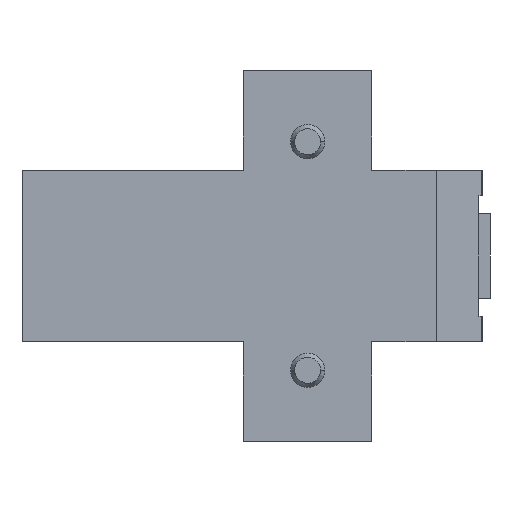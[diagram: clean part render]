
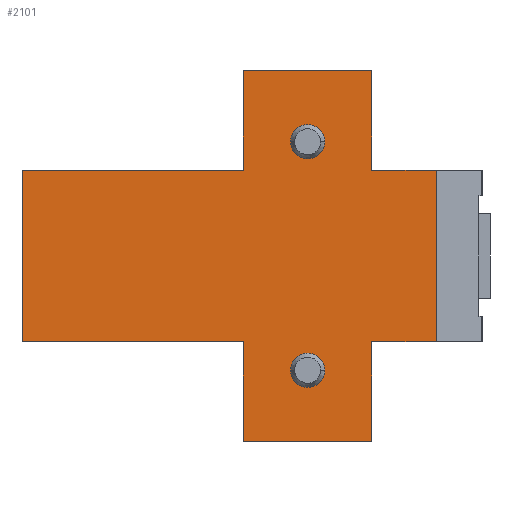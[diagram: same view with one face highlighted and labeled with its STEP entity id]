
A CAD part, left-side view. The second image highlights one B-rep face of the part: STEP entity #2101.
In plain terms, the highlighted planar face has unit normal (-1, 0, 0).
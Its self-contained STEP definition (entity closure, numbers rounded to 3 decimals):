
#28 = AXIS2_PLACEMENT_3D ( 'NONE', #906, #907, #908 ) ;
#29 = CIRCLE ( 'NONE', #236, 2.4 ) ;
#58 = VECTOR ( 'NONE', #890, 1000. ) ;
#87 = VECTOR ( 'NONE', #878, 1000. ) ;
#94 = VECTOR ( 'NONE', #892, 1000. ) ;
#145 = VECTOR ( 'NONE', #903, 1000. ) ;
#146 = VECTOR ( 'NONE', #872, 1000. ) ;
#154 = CIRCLE ( 'NONE', #28, 2.4 ) ;
#176 = VECTOR ( 'NONE', #875, 1000. ) ;
#236 = AXIS2_PLACEMENT_3D ( 'NONE', #868, #869, #870 ) ;
#261 = VECTOR ( 'NONE', #887, 1000. ) ;
#291 = VECTOR ( 'NONE', #881, 1000. ) ;
#322 = AXIS2_PLACEMENT_3D ( 'NONE', #1152, #1148, #1157 ) ;
#325 = VECTOR ( 'NONE', #884, 1000. ) ;
#381 = VECTOR ( 'NONE', #900, 1000. ) ;
#382 = VECTOR ( 'NONE', #897, 1000. ) ;
#390 = VECTOR ( 'NONE', #895, 1000. ) ;
#510 = EDGE_LOOP ( 'NONE', ( #1685, #1686, #1687, #1688, #1689, #1690, #1691, #1692, #1693, #1694, #1695, #1696 ) ) ;
#514 = EDGE_LOOP ( 'NONE', ( #1697, #1698 ) ) ;
#860 = CARTESIAN_POINT ( 'NONE',  ( 0., 22., -26. ) ) ;
#865 = LINE ( 'NONE', #873, #176 ) ;
#866 = LINE ( 'NONE', #876, #87 ) ;
#867 = LINE ( 'NONE', #860, #146 ) ;
#868 = CARTESIAN_POINT ( 'NONE',  ( 0., 13., -16. ) ) ;
#869 = DIRECTION ( 'NONE',  ( -1., 0., 0. ) ) ;
#870 = DIRECTION ( 'NONE',  ( 0., 0., -1. ) ) ;
#871 = LINE ( 'NONE', #879, #291 ) ;
#872 = DIRECTION ( 'NONE',  ( 0., 0., 1. ) ) ;
#873 = CARTESIAN_POINT ( 'NONE',  ( 0., -5.007, 12. ) ) ;
#874 = LINE ( 'NONE', #882, #325 ) ;
#875 = DIRECTION ( 'NONE',  ( 0., 1., 0. ) ) ;
#876 = CARTESIAN_POINT ( 'NONE',  ( 0., 53., -12. ) ) ;
#877 = LINE ( 'NONE', #885, #261 ) ;
#878 = DIRECTION ( 'NONE',  ( 0., 0., 1. ) ) ;
#879 = CARTESIAN_POINT ( 'NONE',  ( 0., -5.007, -12. ) ) ;
#880 = LINE ( 'NONE', #888, #58 ) ;
#881 = DIRECTION ( 'NONE',  ( 0., 1., 0. ) ) ;
#882 = CARTESIAN_POINT ( 'NONE',  ( 0., 22., -26. ) ) ;
#883 = LINE ( 'NONE', #891, #94 ) ;
#884 = DIRECTION ( 'NONE',  ( 0., 0., 1. ) ) ;
#885 = CARTESIAN_POINT ( 'NONE',  ( 0., 4., -26. ) ) ;
#886 = CARTESIAN_POINT ( 'NONE',  ( 0., -5.007, 12. ) ) ;
#887 = DIRECTION ( 'NONE',  ( 0., 1., 0. ) ) ;
#888 = CARTESIAN_POINT ( 'NONE',  ( 0., 4., -26. ) ) ;
#889 = LINE ( 'NONE', #886, #382 ) ;
#890 = DIRECTION ( 'NONE',  ( 0., 0., 1. ) ) ;
#891 = CARTESIAN_POINT ( 'NONE',  ( 0., -5.007, -12. ) ) ;
#892 = DIRECTION ( 'NONE',  ( 0., 1., 0. ) ) ;
#893 = LINE ( 'NONE', #894, #390 ) ;
#894 = CARTESIAN_POINT ( 'NONE',  ( 0., -5.007, -12. ) ) ;
#895 = DIRECTION ( 'NONE',  ( 0., 0., 1. ) ) ;
#897 = DIRECTION ( 'NONE',  ( 0., 1., 0. ) ) ;
#898 = LINE ( 'NONE', #899, #381 ) ;
#899 = CARTESIAN_POINT ( 'NONE',  ( 0., 4., -26. ) ) ;
#900 = DIRECTION ( 'NONE',  ( 0., 0., 1. ) ) ;
#901 = LINE ( 'NONE', #902, #145 ) ;
#902 = CARTESIAN_POINT ( 'NONE',  ( 0., 4., 26. ) ) ;
#903 = DIRECTION ( 'NONE',  ( 0., 1., 0. ) ) ;
#906 = CARTESIAN_POINT ( 'NONE',  ( 0., 13., 16. ) ) ;
#907 = DIRECTION ( 'NONE',  ( -1., 0., 0. ) ) ;
#908 = DIRECTION ( 'NONE',  ( 0., 0., -1. ) ) ;
#1148 = DIRECTION ( 'NONE',  ( 1., 0., 0. ) ) ;
#1151 = FACE_BOUND ( 'NONE', #1738, .T. ) ;
#1152 = CARTESIAN_POINT ( 'NONE',  ( 0., -5.007, -12. ) ) ;
#1153 = FACE_OUTER_BOUND ( 'NONE', #510, .T. ) ;
#1155 = FACE_BOUND ( 'NONE', #514, .T. ) ;
#1156 = PLANE ( 'NONE',  #322 ) ;
#1157 = DIRECTION ( 'NONE',  ( 0., 0., -1. ) ) ;
#1643 = EDGE_CURVE ( 'NONE', #3247, #3241, #29, .T. ) ;
#1644 = EDGE_CURVE ( 'NONE', #3278, #3286, #867, .T. ) ;
#1645 = EDGE_CURVE ( 'NONE', #3278, #3290, #865, .T. ) ;
#1646 = EDGE_CURVE ( 'NONE', #3289, #3290, #866, .T. ) ;
#1647 = EDGE_CURVE ( 'NONE', #3279, #3289, #871, .T. ) ;
#1648 = EDGE_CURVE ( 'NONE', #3236, #3279, #874, .T. ) ;
#1649 = EDGE_CURVE ( 'NONE', #3230, #3236, #877, .T. ) ;
#1650 = EDGE_CURVE ( 'NONE', #3230, #3294, #880, .T. ) ;
#1652 = EDGE_CURVE ( 'NONE', #3291, #3294, #883, .T. ) ;
#1653 = EDGE_CURVE ( 'NONE', #3291, #3296, #893, .T. ) ;
#1656 = EDGE_CURVE ( 'NONE', #3296, #3302, #889, .T. ) ;
#1657 = EDGE_CURVE ( 'NONE', #3302, #3301, #898, .T. ) ;
#1658 = EDGE_CURVE ( 'NONE', #3301, #3286, #901, .T. ) ;
#1659 = EDGE_CURVE ( 'NONE', #3173, #3190, #154, .T. ) ;
#1683 = ORIENTED_EDGE ( 'NONE', *, *, #1643, .F. ) ;
#1684 = ORIENTED_EDGE ( 'NONE', *, *, #3389, .F. ) ;
#1685 = ORIENTED_EDGE ( 'NONE', *, *, #1644, .F. ) ;
#1686 = ORIENTED_EDGE ( 'NONE', *, *, #1645, .T. ) ;
#1687 = ORIENTED_EDGE ( 'NONE', *, *, #1646, .F. ) ;
#1688 = ORIENTED_EDGE ( 'NONE', *, *, #1647, .F. ) ;
#1689 = ORIENTED_EDGE ( 'NONE', *, *, #1648, .F. ) ;
#1690 = ORIENTED_EDGE ( 'NONE', *, *, #1649, .F. ) ;
#1691 = ORIENTED_EDGE ( 'NONE', *, *, #1650, .T. ) ;
#1692 = ORIENTED_EDGE ( 'NONE', *, *, #1652, .F. ) ;
#1693 = ORIENTED_EDGE ( 'NONE', *, *, #1653, .T. ) ;
#1694 = ORIENTED_EDGE ( 'NONE', *, *, #1656, .T. ) ;
#1695 = ORIENTED_EDGE ( 'NONE', *, *, #1657, .T. ) ;
#1696 = ORIENTED_EDGE ( 'NONE', *, *, #1658, .T. ) ;
#1697 = ORIENTED_EDGE ( 'NONE', *, *, #1659, .F. ) ;
#1698 = ORIENTED_EDGE ( 'NONE', *, *, #3383, .F. ) ;
#1738 = EDGE_LOOP ( 'NONE', ( #1683, #1684 ) ) ;
#1966 = AXIS2_PLACEMENT_3D ( 'NONE', #2939, #2940, #2941 ) ;
#1999 = CIRCLE ( 'NONE', #1966, 2.4 ) ;
#2052 = CIRCLE ( 'NONE', #2056, 2.4 ) ;
#2056 = AXIS2_PLACEMENT_3D ( 'NONE', #2958, #2959, #2960 ) ;
#2101 = ADVANCED_FACE ( 'NONE', ( #1151, #1153, #1155 ), #1156, .F. ) ;
#2695 = CARTESIAN_POINT ( 'NONE',  ( 0., 4., -26. ) ) ;
#2701 = CARTESIAN_POINT ( 'NONE',  ( 0., 22., -26. ) ) ;
#2706 = CARTESIAN_POINT ( 'NONE',  ( 0., 15.4, -16. ) ) ;
#2712 = CARTESIAN_POINT ( 'NONE',  ( 0., 10.6, -16. ) ) ;
#2734 = CARTESIAN_POINT ( 'NONE',  ( 0., 22., 12. ) ) ;
#2742 = CARTESIAN_POINT ( 'NONE',  ( 0., 22., -12. ) ) ;
#2749 = CARTESIAN_POINT ( 'NONE',  ( 0., 22., 26. ) ) ;
#2752 = CARTESIAN_POINT ( 'NONE',  ( 0., 53., -12. ) ) ;
#2753 = CARTESIAN_POINT ( 'NONE',  ( 0., 53., 12. ) ) ;
#2754 = CARTESIAN_POINT ( 'NONE',  ( 0., -5.007, -12. ) ) ;
#2757 = CARTESIAN_POINT ( 'NONE',  ( 0., 4., -12. ) ) ;
#2759 = CARTESIAN_POINT ( 'NONE',  ( 0., -5.007, 12. ) ) ;
#2764 = CARTESIAN_POINT ( 'NONE',  ( 0., 4., 26. ) ) ;
#2765 = CARTESIAN_POINT ( 'NONE',  ( 0., 4., 12. ) ) ;
#2939 = CARTESIAN_POINT ( 'NONE',  ( 0., 13., 16. ) ) ;
#2940 = DIRECTION ( 'NONE',  ( -1., 0., 0. ) ) ;
#2941 = DIRECTION ( 'NONE',  ( 0., 0., -1. ) ) ;
#2958 = CARTESIAN_POINT ( 'NONE',  ( 0., 13., -16. ) ) ;
#2959 = DIRECTION ( 'NONE',  ( -1., 0., 0. ) ) ;
#2960 = DIRECTION ( 'NONE',  ( 0., 0., -1. ) ) ;
#3173 = VERTEX_POINT ( 'NONE', #3912 ) ;
#3190 = VERTEX_POINT ( 'NONE', #3929 ) ;
#3230 = VERTEX_POINT ( 'NONE', #2695 ) ;
#3236 = VERTEX_POINT ( 'NONE', #2701 ) ;
#3241 = VERTEX_POINT ( 'NONE', #2706 ) ;
#3247 = VERTEX_POINT ( 'NONE', #2712 ) ;
#3278 = VERTEX_POINT ( 'NONE', #2734 ) ;
#3279 = VERTEX_POINT ( 'NONE', #2742 ) ;
#3286 = VERTEX_POINT ( 'NONE', #2749 ) ;
#3289 = VERTEX_POINT ( 'NONE', #2752 ) ;
#3290 = VERTEX_POINT ( 'NONE', #2753 ) ;
#3291 = VERTEX_POINT ( 'NONE', #2754 ) ;
#3294 = VERTEX_POINT ( 'NONE', #2757 ) ;
#3296 = VERTEX_POINT ( 'NONE', #2759 ) ;
#3301 = VERTEX_POINT ( 'NONE', #2764 ) ;
#3302 = VERTEX_POINT ( 'NONE', #2765 ) ;
#3383 = EDGE_CURVE ( 'NONE', #3190, #3173, #1999, .T. ) ;
#3389 = EDGE_CURVE ( 'NONE', #3241, #3247, #2052, .T. ) ;
#3912 = CARTESIAN_POINT ( 'NONE',  ( 0., 10.6, 16. ) ) ;
#3929 = CARTESIAN_POINT ( 'NONE',  ( 0., 15.4, 16. ) ) ;
